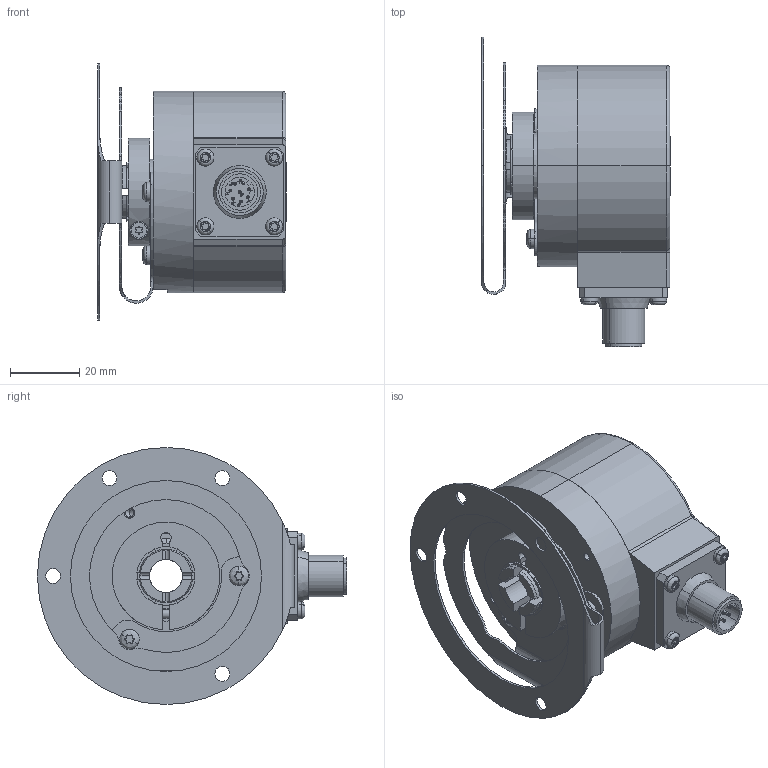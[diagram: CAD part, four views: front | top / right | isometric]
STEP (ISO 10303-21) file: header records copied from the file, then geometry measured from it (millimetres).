
FILE_DESCRIPTION (( 'STEP AP203' ), '1' );
FILE_NAME ('K58I.OXX.XXXXX.XH2352A.6XRC5.step', '2025-12-08T14:47:19', ( '' ), ( '' ), 'SwSTEP 2.0', 'SolidWorks 2021', '' );
FILE_SCHEMA (( 'CONFIG_CONTROL_DESIGN' ));
Length unit declared in the file: millimetre
Products named in the file (1): K58I.OXX.XXXXX.XH2352A.6XRC5
Bounding box: 54.39 x 89 x 74 mm (x, y, z)
Volume: 113122.1 mm3; surface area: 44503.3 mm2
Topology: 8 solids, 8 shells, 659 faces, 1748 edges, 1128 vertices
Faces by surface type: cylinder 327, plane 184, bspline 74, cone 49, sphere 16, torus 9
Entity records: 25345 total; most frequent: CARTESIAN_POINT 9222, ORIENTED_EDGE 3404, DIRECTION 3300, EDGE_CURVE 1702, AXIS2_PLACEMENT_3D 1264, VERTEX_POINT 1112, LINE 772, VECTOR 772
